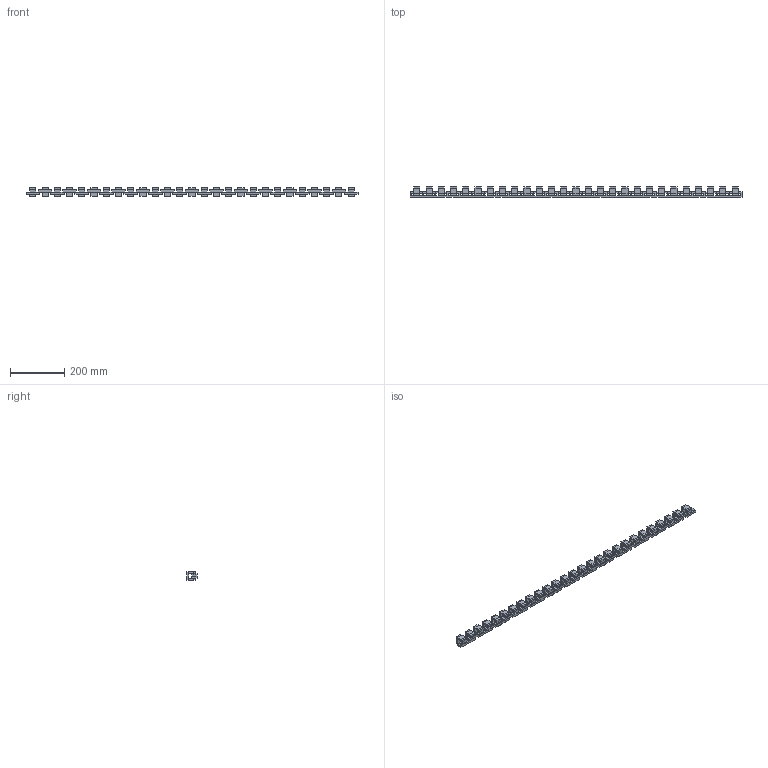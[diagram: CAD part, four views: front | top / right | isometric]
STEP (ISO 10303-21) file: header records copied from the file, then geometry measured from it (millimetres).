
FILE_DESCRIPTION(('Open CASCADE Model'),'2;1');
FILE_NAME('Open CASCADE Shape Model','2026-08-14T13:04:21',('Author'),( 'Open CASCADE'),'Open CASCADE STEP processor 7.7','Open CASCADE 7.7' ,'Unknown');
FILE_SCHEMA(('AUTOMOTIVE_DESIGN { 1 0 10303 214 1 1 1 1 }'));
Length unit declared in the file: millimetre
Products named in the file (217): Open CASCADE STEP translator 7.7 3; Open CASCADE STEP translator 7.7 3.1; Open CASCADE STEP translator 7.7 3.2; Open CASCADE STEP translator 7.7 3.3; Open CASCADE STEP translator 7.7 3.4; Open CASCADE STEP translator 7.7 3.5; Open CASCADE STEP translator 7.7 3.6; Open CASCADE STEP translator 7.7 3.7; Open CASCADE STEP translator 7.7 3.8; Open CASCADE STEP translator 7.7 3.9; Open CASCADE STEP translator 7.7 3.10; Open CASCADE STEP translator 7.7 3.11; Open CASCADE STEP translator 7.7 3.12; Open CASCADE STEP translator 7.7 3.13; Open CASCADE STEP translator 7.7 3.14; Open CASCADE STEP translator 7.7 3.15; Open CASCADE STEP translator 7.7 3.16; Open CASCADE STEP translator 7.7 3.17; Open CASCADE STEP translator 7.7 3.18; Open CASCADE STEP translator 7.7 3.19; Open CASCADE STEP translator 7.7 3.20; Open CASCADE STEP translator 7.7 3.21; Open CASCADE STEP translator 7.7 3.22; Open CASCADE STEP translator 7.7 3.23; Open CASCADE STEP translator 7.7 3.24; Open CASCADE STEP translator 7.7 3.25; Open CASCADE STEP translator 7.7 3.26; Open CASCADE STEP translator 7.7 3.27; Open CASCADE STEP translator 7.7 3.28; Open CASCADE STEP translator 7.7 3.29; Open CASCADE STEP translator 7.7 3.30; Open CASCADE STEP translator 7.7 3.31; Open CASCADE STEP translator 7.7 3.32; Open CASCADE STEP translator 7.7 3.33; Open CASCADE STEP translator 7.7 3.34; Open CASCADE STEP translator 7.7 3.35; Open CASCADE STEP translator 7.7 3.36; Open CASCADE STEP translator 7.7 3.37; Open CASCADE STEP translator 7.7 3.38; Open CASCADE STEP translator 7.7 3.39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
Assembly tree (216 placements, depth 2):
  Open CASCADE STEP translator 7.7 3
    Open CASCADE STEP translator 7.7 3.1
    Open CASCADE STEP translator 7.7 3.2
    Open CASCADE STEP translator 7.7 3.3
    Open CASCADE STEP translator 7.7 3.4
    Open CASCADE STEP translator 7.7 3.5
    Open CASCADE STEP translator 7.7 3.6
    Open CASCADE STEP translator 7.7 3.7
    Open CASCADE STEP translator 7.7 3.8
    Open CASCADE STEP translator 7.7 3.9
    Open CASCADE STEP translator 7.7 3.10
    Open CASCADE STEP translator 7.7 3.11
    Open CASCADE STEP translator 7.7 3.12
    Open CASCADE STEP translator 7.7 3.13
    Open CASCADE STEP translator 7.7 3.14
    Open CASCADE STEP translator 7.7 3.15
    Open CASCADE STEP translator 7.7 3.16
    Open CASCADE STEP translator 7.7 3.17
    Open CASCADE STEP translator 7.7 3.18
    Open CASCADE STEP translator 7.7 3.19
    Open CASCADE STEP translator 7.7 3.20
    Open CASCADE STEP translator 7.7 3.21
    Open CASCADE STEP translator 7.7 3.22
    Open CASCADE STEP translator 7.7 3.23
    Open CASCADE STEP translator 7.7 3.24
    Open CASCADE STEP translator 7.7 3.25
    Open CASCADE STEP translator 7.7 3.26
    Open CASCADE STEP translator 7.7 3.27
    Open CASCADE STEP translator 7.7 3.28
    Open CASCADE STEP translator 7.7 3.29
    Open CASCADE STEP translator 7.7 3.30
    Open CASCADE STEP translator 7.7 3.31
    Open CASCADE STEP translator 7.7 3.32
    Open CASCADE STEP translator 7.7 3.33
    Open CASCADE STEP translator 7.7 3.34
    Open CASCADE STEP translator 7.7 3.35
    Open CASCADE STEP translator 7.7 3.36
    Open CASCADE STEP translator 7.7 3.37
    Open CASCADE STEP translator 7.7 3.38
    Open CASCADE STEP translator 7.7 3.39
    Open CASCADE STEP translator 7.7 3.40
    Open CASCADE STEP translator 7.7 3.41
    Open CASCADE STEP translator 7.7 3.42
    Open CASCADE STEP translator 7.7 3.43
    Open CASCADE STEP translator 7.7 3.44
    Open CASCADE STEP translator 7.7 3.45
    Open CASCADE STEP translator 7.7 3.46
    Open CASCADE STEP translator 7.7 3.47
    Open CASCADE STEP translator 7.7 3.48
    Open CASCADE STEP translator 7.7 3.49
    Open CASCADE STEP translator 7.7 3.50
    Open CASCADE STEP translator 7.7 3.51
    Open CASCADE STEP translator 7.7 3.52
    Open CASCADE STEP translator 7.7 3.53
    Open CASCADE STEP translator 7.7 3.54
    Open CASCADE STEP translator 7.7 3.55
    Open CASCADE STEP translator 7.7 3.56
    Open CASCADE STEP translator 7.7 3.57
    Open CASCADE STEP translator 7.7 3.58
    Open CASCADE STEP translator 7.7 3.59
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Bounding box: 1228.3 x 37.24 x 30 mm (x, y, z)
Volume: 550310.6 mm3; surface area: 301041.4 mm2
Topology: 216 solids, 216 shells, 1404 faces, 2916 edges, 1944 vertices
Faces by surface type: plane 1404
Entity records: 77452 total; most frequent: CARTESIAN_POINT 12745, DIRECTION 11558, LINE 8316, VECTOR 8316, ORIENTED_EDGE 5832, PCURVE 5832, DEFINITIONAL_REPRESENTATION 5832, EDGE_CURVE 2916
